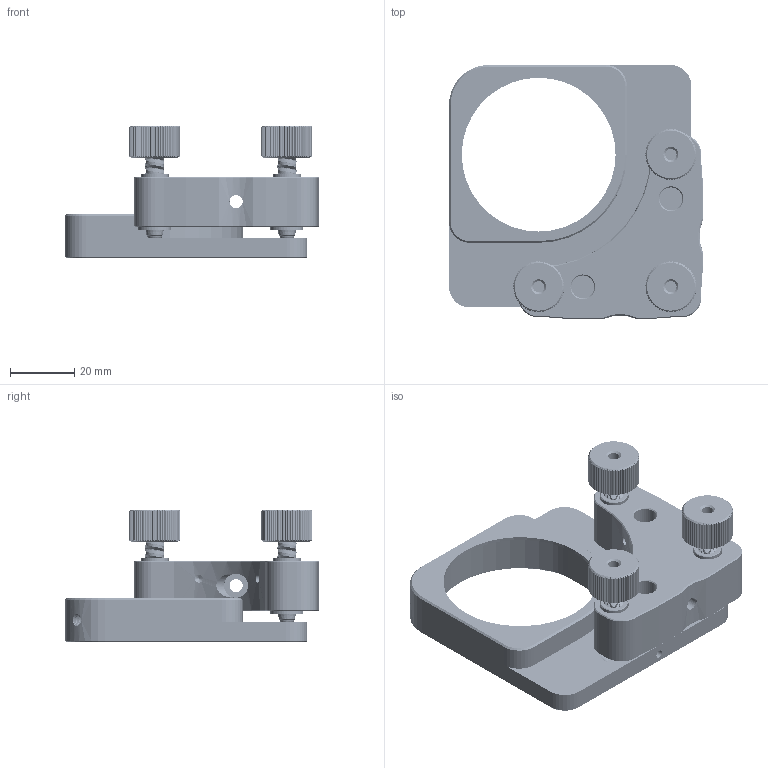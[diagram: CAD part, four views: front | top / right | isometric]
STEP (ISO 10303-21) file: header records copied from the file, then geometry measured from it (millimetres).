
FILE_DESCRIPTION((''),'2;1');
FILE_NAME('TAMH-S2_ASM','2024-09-09T10:08:22',('R&D'),(''),'CREO PARAMETRIC BY PTC INC, 2021063','CREO PARAMETRIC BY PTC INC, 2021063','');
FILE_SCHEMA(('CONFIG_CONTROL_DESIGN'));
Products named in the file (8): TAMH-S2-A2; TAMH-S2-A5; TAMH-S2-A6; TAMH-S2-A9; TAMH-S2-B5; TAMH-S2-B3; TAMH-S2-A1_ASM; TAMH-S2_ASM
Assembly tree (13 placements, depth 3):
  TAMH-S2_ASM
    TAMH-S2-A1_ASM
      TAMH-S2-A2
      TAMH-S2-A5  x3
      TAMH-S2-A6  x3
      TAMH-S2-A9  x3
      TAMH-S2-B5
      TAMH-S2-B3
Bounding box: 79.3 x 79.3 x 41.49 mm (x, y, z)
Volume: 58781.8 mm3; surface area: 32168.4 mm2
Topology: 11 solids, 11 shells, 2140 faces, 5926 edges, 3829 vertices
Faces by surface type: cylinder 1094, plane 494, bspline 386, cone 148, sphere 12, torus 6
Entity records: 75644 total; most frequent: CARTESIAN_POINT 55523, ORIENTED_EDGE 4756, DIRECTION 3228, EDGE_CURVE 2378, VERTEX_POINT 1527, AXIS2_PLACEMENT_3D 1154, B_SPLINE_CURVE_WITH_KNOTS 1077, EDGE_LOOP 923
